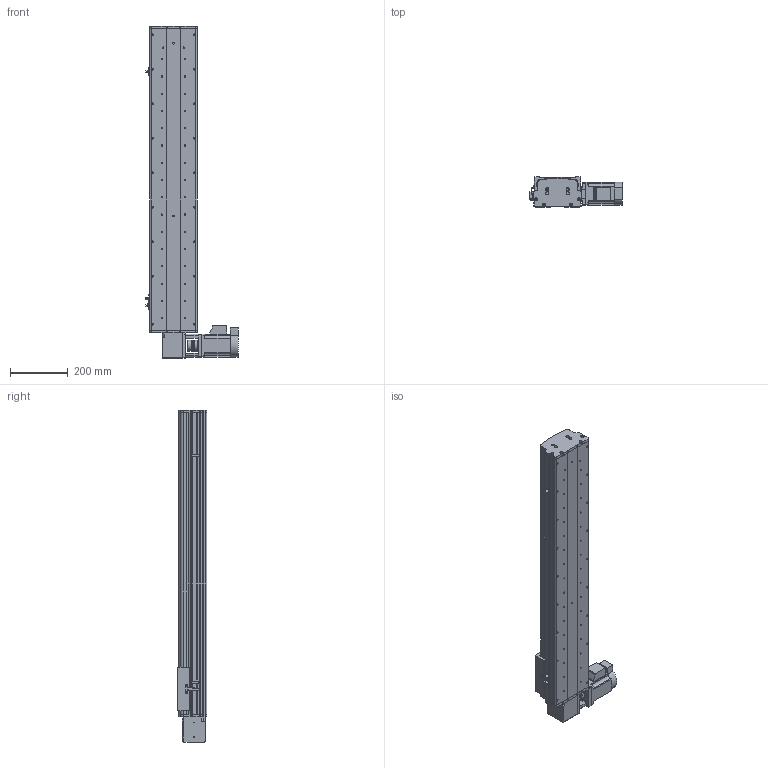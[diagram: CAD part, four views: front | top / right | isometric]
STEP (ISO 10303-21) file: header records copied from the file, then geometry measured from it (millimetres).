
FILE_DESCRIPTION (( 'STEP AP214' ), '1' );
FILE_NAME ('KSD165B-S800-MRT-CM.STEP', '2017-08-14T05:54:36', ( '微软用户' ), ( '微软中国' ), 'SwSTEP 2.0', 'SolidWorks 2014', '' );
FILE_SCHEMA (( 'AUTOMOTIVE_DESIGN' ));
Length unit declared in the file: millimetre
Products named in the file (16): KSD165耀郪-ヶ傷啣1-肮祭湍; KSD165模组-后端板1-同步带; 130宽马达安装板1-带电机座750W（1）; KSD165模组-同步带滑动座-最新版; KSD165B-S800-MRT-CM; KSD165模组-同步带防尘盖1-800行程-最新版; KSD165模组同步带底板-800行程-最新; 拸秶雄ん750W侜督萇儂; 165宽安装板同步带带电机座750W; 165宽马达安装板同步带右; C39ㄜ1419WP; U倰嫖萇假蚾璃; U倰嫖萇EEㄜSX672; 覜茼え68遵圉猾敕; KSD165模组-同步带-防撞垫2; KSD165模组同步带-防撞垫1
Assembly tree (19 placements, depth 2):
  KSD165B-S800-MRT-CM
    KSD165模组-同步带滑动座-最新版
    130宽马达安装板1-带电机座750W（1）
    KSD165模组-后端板1-同步带
    KSD165耀郪-ヶ傷啣1-肮祭湍
    KSD165模组同步带-防撞垫1
    KSD165模组-同步带-防撞垫2
    覜茼え68遵圉猾敕
    U倰嫖萇EEㄜSX672  x3
    U倰嫖萇假蚾璃  x3
    C39ㄜ1419WP
    165宽马达安装板同步带右
    165宽安装板同步带带电机座750W
    拸秶雄ん750W侜督萇儂
    KSD165模组同步带底板-800行程-最新
    KSD165模组-同步带防尘盖1-800行程-最新版
Bounding box: 321.2 x 104 x 1154 mm (x, y, z)
Volume: 6985009.6 mm3; surface area: 1567541.1 mm2
Topology: 20 solids, 20 shells, 1478 faces, 4110 edges, 2661 vertices
Faces by surface type: cylinder 807, plane 577, cone 94
Entity records: 46903 total; most frequent: CARTESIAN_POINT 9833, DIRECTION 7296, ORIENTED_EDGE 6872, EDGE_CURVE 3436, AXIS2_PLACEMENT_3D 2772, VERTEX_POINT 2253, VECTOR 1752, LINE 1752
